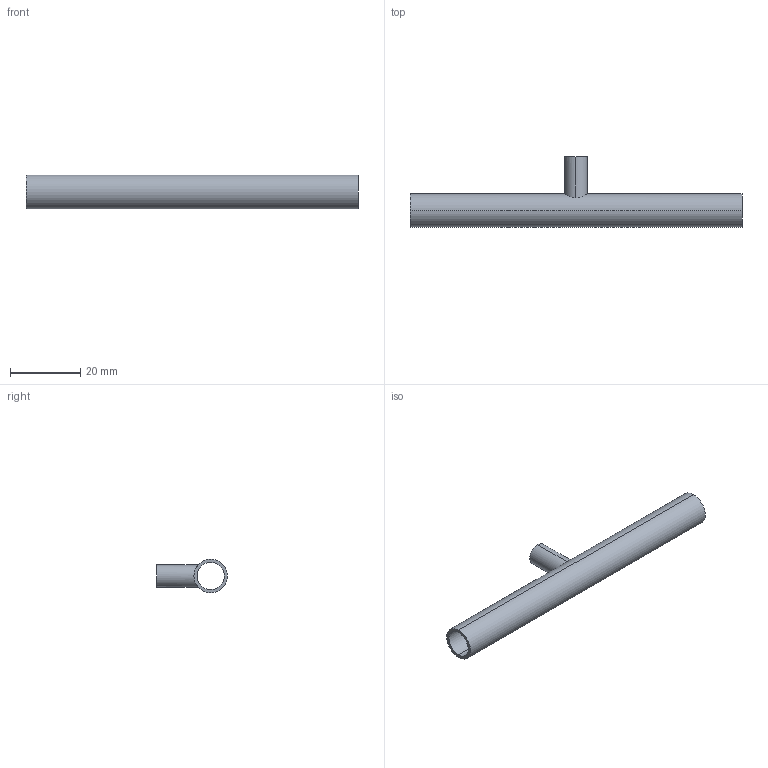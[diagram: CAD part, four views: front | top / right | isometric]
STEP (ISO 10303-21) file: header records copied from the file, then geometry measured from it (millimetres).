
FILE_DESCRIPTION (( 'STEP AP214' ), '1' );
FILE_NAME ('TEG7RS6L.375x.25-...STEP', '2016-05-24T08:02:17', ( 'eran' ), ( '' ), 'SwSTEP 2.0', 'SolidWorks 2016', '' );
FILE_SCHEMA (( 'AUTOMOTIVE_DESIGN' ));
Length unit declared in the file: millimetre
Products named in the file (1): TEG7RS6L.375x.25-..
Bounding box: 94.4 x 20.16 x 9.53 mm (x, y, z)
Volume: 2434.3 mm3; surface area: 5531.7 mm2
Topology: 1 solids, 1 shells, 11 faces, 24 edges, 16 vertices
Faces by surface type: cylinder 8, plane 3
Entity records: 464 total; most frequent: CARTESIAN_POINT 172, DIRECTION 56, ORIENTED_EDGE 48, EDGE_CURVE 24, AXIS2_PLACEMENT_3D 24, VERTEX_POINT 16, EDGE_LOOP 16, CIRCLE 12
